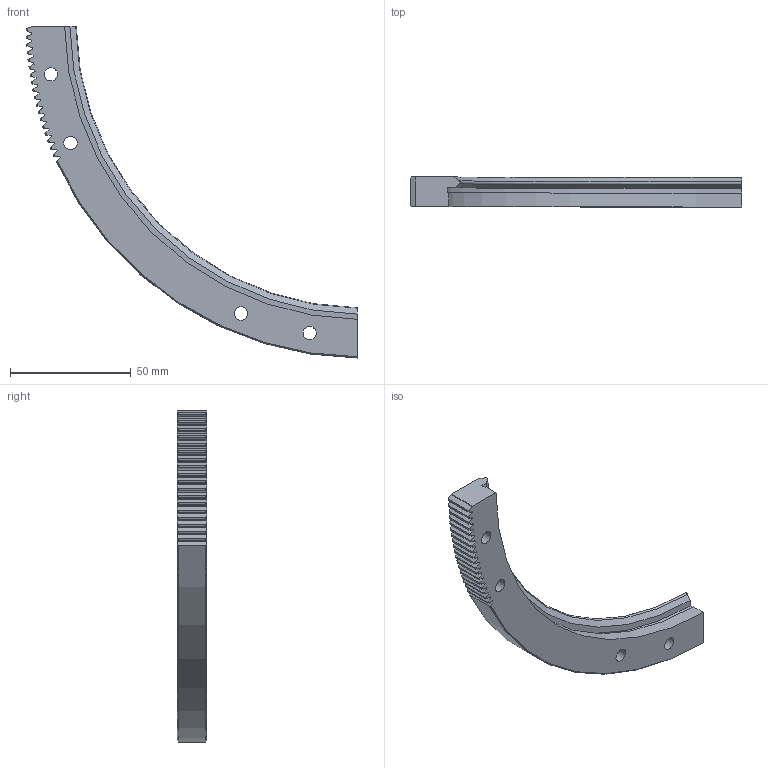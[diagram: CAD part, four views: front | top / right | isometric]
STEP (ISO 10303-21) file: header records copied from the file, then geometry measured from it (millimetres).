
FILE_DESCRIPTION( ( 'STEP AP203' ), '1' );
FILE_NAME( 'p:/temp/worker_29/temp/exporttempdir_2736_513_x82sE/format_0/TRIS 278 R90 P .stp', '2021-09-17T07:47:44', ( 'License CC BY-ND 4.0' ), ( 'CADENAS' ), ' ', 'PARTsolutions', ' ' );
FILE_SCHEMA( ( 'CONFIG_CONTROL_DESIGN' ) );
Length unit declared in the file: millimetre
Products named in the file (1): _TRIS 278 R90 P 
Bounding box: 137.47 x 12.25 x 137.49 mm (x, y, z)
Volume: 39562.2 mm3; surface area: 14784.8 mm2
Topology: 1 solids, 1 shells, 136 faces, 390 edges, 260 vertices
Faces by surface type: cylinder 48, plane 47, cone 40, torus 1
Full cylindrical faces by diameter (mm): 5.5 x4, 10 x4
Entity records: 4606 total; most frequent: CARTESIAN_POINT 1037, ORIENTED_EDGE 764, DIRECTION 712, EDGE_CURVE 382, AXIS2_PLACEMENT_3D 275, VERTEX_POINT 260, LINE 162, VECTOR 162
